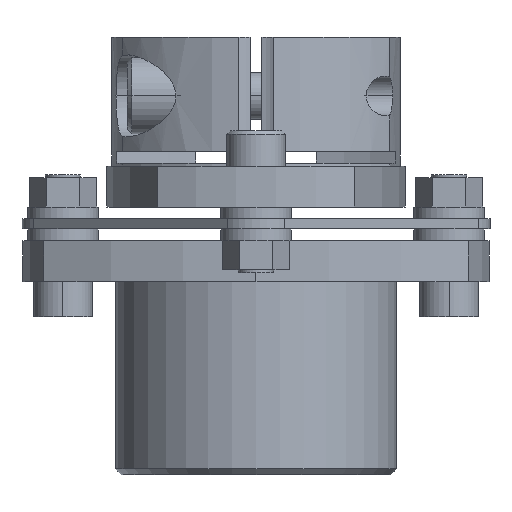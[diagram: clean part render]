
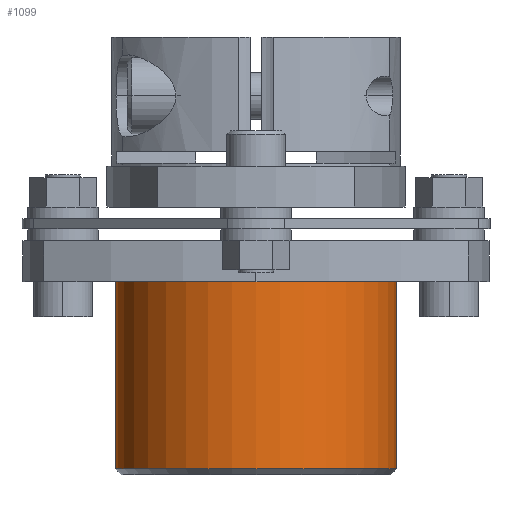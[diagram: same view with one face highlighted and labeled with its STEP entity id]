
A CAD part, front view. The second image highlights one B-rep face of the part: STEP entity #1099.
In plain terms, the highlighted cylindrical face has radius 24 mm (diameter 48 mm), a partial arc.
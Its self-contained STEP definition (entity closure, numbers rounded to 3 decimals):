
#1058=CARTESIAN_POINT('',(0.,0.,-22.875));
#1059=DIRECTION('',(0.0,0.0,1.0));
#1060=DIRECTION('',(-1.0,0.,0.0));
#1061=AXIS2_PLACEMENT_3D('',#1058,#1059,#1060);
#1062=CYLINDRICAL_SURFACE('',#1061,24.0);
#1063=CARTESIAN_POINT('',(-24.,0.,-41.875));
#1064=VERTEX_POINT('',#1063);
#1065=CARTESIAN_POINT('',(-24.,0.,-9.875));
#1066=VERTEX_POINT('',#1065);
#1067=CARTESIAN_POINT('',(-24.,0.,-41.875));
#1068=DIRECTION('',(0.0,0.0,1.0));
#1069=VECTOR('',#1068,32.0);
#1070=LINE('',#1067,#1069);
#1071=EDGE_CURVE('',#1064,#1066,#1070,.T.);
#1072=ORIENTED_EDGE('',*,*,#1071,.F.);
#1073=CARTESIAN_POINT('',(24.,0.,-41.875));
#1074=VERTEX_POINT('',#1073);
#1075=CARTESIAN_POINT('',(0.,0.,-41.875));
#1076=DIRECTION('',(0.0,0.0,-1.0));
#1077=DIRECTION('',(1.0,0.,0.0));
#1078=AXIS2_PLACEMENT_3D('',#1075,#1076,#1077);
#1079=CIRCLE('',#1078,24.0);
#1080=EDGE_CURVE('',#1074,#1064,#1079,.T.);
#1081=ORIENTED_EDGE('',*,*,#1080,.F.);
#1082=CARTESIAN_POINT('',(24.,0.,-9.875));
#1083=VERTEX_POINT('',#1082);
#1084=CARTESIAN_POINT('',(24.,0.,-9.875));
#1085=DIRECTION('',(0.0,0.0,-1.0));
#1086=VECTOR('',#1085,32.0);
#1087=LINE('',#1084,#1086);
#1088=EDGE_CURVE('',#1083,#1074,#1087,.T.);
#1089=ORIENTED_EDGE('',*,*,#1088,.F.);
#1090=CARTESIAN_POINT('',(0.,0.,-9.875));
#1091=DIRECTION('',(0.0,0.0,1.0));
#1092=DIRECTION('',(-1.0,0.,0.0));
#1093=AXIS2_PLACEMENT_3D('',#1090,#1091,#1092);
#1094=CIRCLE('',#1093,24.0);
#1095=EDGE_CURVE('',#1066,#1083,#1094,.T.);
#1096=ORIENTED_EDGE('',*,*,#1095,.F.);
#1097=EDGE_LOOP('',(#1072,#1081,#1089,#1096));
#1098=FACE_OUTER_BOUND('',#1097,.T.);
#1099=ADVANCED_FACE('',(#1098),#1062,.T.);
